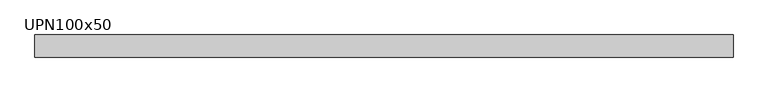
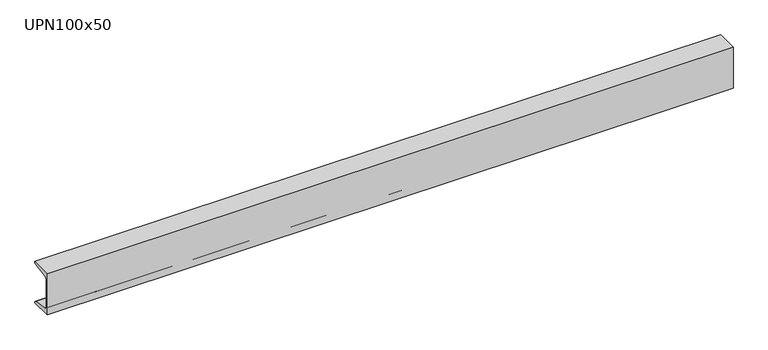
"""IFC4 building model written with IfcOpenShell, lengths in millimetres: beam geometry, M_MC Shapes : UPN100x50."""

import ifcopenshell
import ifcopenshell.guid

model = None  # the IFC model being written
_history = None  # IfcOwnerHistory: only IFC2X3 demands one
_inside = {}  # id of a spatial element -> (the spatial element, [elements in it])
_under = {}  # id of a project, library or spatial element -> (it, [spatial elements below it])
_declared = {}  # id of a project -> (the project, [libraries it declares])
_typed = {}  # id of a type object -> (the type object, [elements of that type])
_made_of = {}  # id of a material, layer set ... -> (it, [elements and type objects made of it])


def new_model(schema):
    """Start an empty IFC model of exactly this schema.

    Asked for "IFC4X3", IfcOpenShell would pick the latest addendum, in which some entities
    have other attributes; the version numbers below select the first issue.
    IFC2X3 requires an IfcOwnerHistory on every rooted entity: one is made here for all.
    """
    global model, _history
    if schema == "IFC4X3":
        model = ifcopenshell.file(schema_version=(4, 3, 0, 0))
    else:
        model = ifcopenshell.file(schema=schema)
    _inside.clear()
    _under.clear()
    _declared.clear()
    _typed.clear()
    _made_of.clear()
    _history = None
    if model.schema == "IFC2X3":
        org = make("IfcOrganization", Name="unknown")
        user = make(
            "IfcPersonAndOrganization",
            ThePerson=make("IfcPerson", FamilyName="unknown"),
            TheOrganization=org,
        )
        app = make(
            "IfcApplication",
            ApplicationDeveloper=org,
            Version="unknown",
            ApplicationFullName="unknown",
            ApplicationIdentifier="unknown",
        )
        _history = make(
            "IfcOwnerHistory",
            OwningUser=user,
            OwningApplication=app,
            ChangeAction="ADDED",
            CreationDate=0,
        )
    return model


def make(cls, **values):
    """One entity of the class cls with the attributes given. An attribute that is None is left unset."""
    return model.create_entity(
        cls, **{name: value for name, value in values.items() if value is not None}
    )


def rooted(cls, **values):
    """An entity with a GlobalId (a new one), such as an element, a storey or a relation."""
    return make(cls, GlobalId=ifcopenshell.guid.new(), OwnerHistory=_history, **values)


def si_unit(unit_type, name, prefix=None):
    """IfcSIUnit, for example si_unit("LENGTHUNIT", "METRE", prefix="MILLI")."""
    return make("IfcSIUnit", UnitType=unit_type, Prefix=prefix, Name=name)


def assignment(units):
    """IfcUnitAssignment: the units of a project."""
    return None if units is None else make("IfcUnitAssignment", Units=units)


def point(xyz):
    """IfcCartesianPoint."""
    return None if xyz is None else make("IfcCartesianPoint", Coordinates=xyz)


def direction(xyz):
    """IfcDirection."""
    return None if xyz is None else make("IfcDirection", DirectionRatios=xyz)


def frame(location, z_axis=None, x_axis=None):
    """IfcAxis2Placement3D, a coordinate frame: its origin and axes. An axis left out is left unset."""
    return make(
        "IfcAxis2Placement3D",
        Location=point(location),
        Axis=direction(z_axis),
        RefDirection=direction(x_axis),
    )


def frame_2d(location, x_axis=None):
    """IfcAxis2Placement2D, a coordinate frame in the plane: its origin and x axis."""
    return make(
        "IfcAxis2Placement2D", Location=point(location), RefDirection=direction(x_axis)
    )


def origin():
    """The frame at (0, 0, 0) with its axes left unset."""
    return frame((0.0, 0.0, 0.0))


def place(relative_to, where):
    """IfcLocalPlacement: puts the frame where relative to a parent placement (None: the world)."""
    return make(
        "IfcLocalPlacement", PlacementRelTo=relative_to, RelativePlacement=where
    )


def context(
    kind, dimensions, precision=None, world=None, true_north=None, identifier=None
):
    """IfcGeometricRepresentationContext, for example the 3D "Model" context."""
    return make(
        "IfcGeometricRepresentationContext",
        ContextIdentifier=identifier,
        ContextType=kind,
        CoordinateSpaceDimension=dimensions,
        Precision=precision,
        WorldCoordinateSystem=world,
        TrueNorth=true_north,
    )


def project(units=None, contexts=None):
    """IfcProject with its units and contexts."""
    return rooted(
        "IfcProject",
        Name="project",
        RepresentationContexts=contexts,
        UnitsInContext=assignment(units),
    )


def spatial(cls, under=None, at=None, **own):
    """A site, building, storey or space (cls), placed at a placement, below another one or the project."""
    s = rooted(cls, ObjectPlacement=at, **own)
    if under is not None:
        _under.setdefault(under.id(), (under, []))[1].append(s)
    return s


def polyline(points):
    """IfcPolyline through the points."""
    return make("IfcPolyline", Points=[point(p) for p in points])


def circle_curve(where, radius):
    """IfcCircle in the frame where."""
    return make("IfcCircle", Position=where, Radius=radius)


def trimmed(basis, trim1, trim2, sense, master):
    """IfcTrimmedCurve: the piece of a basis curve between two trims."""
    return make(
        "IfcTrimmedCurve",
        BasisCurve=basis,
        Trim1=trim1,
        Trim2=trim2,
        SenseAgreement=sense,
        MasterRepresentation=master,
    )


def segment(curve, same_sense, transition):
    """IfcCompositeCurveSegment."""
    return make(
        "IfcCompositeCurveSegment",
        Transition=transition,
        SameSense=same_sense,
        ParentCurve=curve,
    )


def composite_curve(segments, self_intersect=None):
    """IfcCompositeCurve: segments joined end to end."""
    return make("IfcCompositeCurve", Segments=segments, SelfIntersect=self_intersect)


def outline(outer, holes=None, kind="AREA"):
    """IfcArbitraryClosedProfileDef: a profile drawn as a closed curve; with holes, ...WithVoids."""
    if holes is None:
        return make("IfcArbitraryClosedProfileDef", ProfileType=kind, OuterCurve=outer)
    return make(
        "IfcArbitraryProfileDefWithVoids",
        ProfileType=kind,
        OuterCurve=outer,
        InnerCurves=holes,
    )


def extrude(swept, where, along, depth):
    """IfcExtrudedAreaSolid: the profile swept, set in the frame where, extruded along a direction by depth."""
    return make(
        "IfcExtrudedAreaSolid",
        SweptArea=swept,
        Position=where,
        ExtrudedDirection=direction(along),
        Depth=depth,
    )


def shape(context_of_items, identifier, shape_type, items):
    """IfcShapeRepresentation: the items that make up one representation, for example the "Body"."""
    return make(
        "IfcShapeRepresentation",
        ContextOfItems=context_of_items,
        RepresentationIdentifier=identifier,
        RepresentationType=shape_type,
        Items=items,
    )


def source(mapping_origin, context_of_items, identifier, shape_type, items):
    """IfcRepresentationMap: a shape defined once, which mapped items show again and again."""
    return make(
        "IfcRepresentationMap",
        MappingOrigin=mapping_origin,
        MappedRepresentation=shape(context_of_items, identifier, shape_type, items),
    )


def transform(
    local_origin,
    x_axis=None,
    y_axis=None,
    z_axis=None,
    scale=None,
    scale2=None,
    scale3=None,
    uniform=True,
):
    """IfcCartesianTransformationOperator3D, or its non-uniform kind. x_axis, y_axis, z_axis: its Axis1, 2, 3."""
    if uniform:
        return make(
            "IfcCartesianTransformationOperator3D",
            Axis1=direction(x_axis),
            Axis2=direction(y_axis),
            LocalOrigin=point(local_origin),
            Scale=scale,
            Axis3=direction(z_axis),
        )
    return make(
        "IfcCartesianTransformationOperator3DnonUniform",
        Axis1=direction(x_axis),
        Axis2=direction(y_axis),
        LocalOrigin=point(local_origin),
        Scale=scale,
        Axis3=direction(z_axis),
        Scale2=scale2,
        Scale3=scale3,
    )


def mapped(mapping_source, mapping_target):
    """IfcMappedItem: shows the shape of a source again, moved by a transform."""
    return make(
        "IfcMappedItem", MappingSource=mapping_source, MappingTarget=mapping_target
    )


def made_of(thing, what):
    """Note that an element or type object is made of a material, layer set ...; save() writes the relation."""
    if what is not None:
        _made_of.setdefault(what.id(), (what, []))[1].append(thing)
    return thing


def element(
    cls,
    number,
    at=None,
    inside=None,
    cuts=None,
    type_object=None,
    material=None,
    context=None,
    identifier="Body",
    shape_type=None,
    held_by="IfcProductDefinitionShape",
    body=None,
    shapes=None,
    **own,
):
    """One element of the class cls, such as IfcWall. Its Tag is "e" and its number.

    at: its placement. inside: the storey or other place that contains it. cuts: it is an
    opening in that element (IfcRelVoidsElement). A single representation is given by context,
    identifier, shape_type and body (its items); several are given by shapes. held_by: the class
    of the entity that holds the representations. save() writes the other relations.
    """
    e = rooted(cls, Tag="e%d" % number, ObjectPlacement=at, **own)
    if body is not None:
        shapes = [shape(context, identifier, shape_type, body)]
    if shapes is not None:
        e.Representation = make(held_by, Representations=shapes)
    if inside is not None:
        _inside.setdefault(inside.id(), (inside, []))[1].append(e)
    if cuts is not None:
        rooted(
            "IfcRelVoidsElement", RelatingBuildingElement=cuts, RelatedOpeningElement=e
        )
    if type_object is not None:
        _typed.setdefault(type_object.id(), (type_object, []))[1].append(e)
    return made_of(e, material)


def aggregate(whole, parts):
    """IfcRelAggregates: a whole, such as a stair, and the parts it consists of."""
    return rooted("IfcRelAggregates", RelatingObject=whole, RelatedObjects=parts)


def save(model, path):
    """Write the relations noted so far, then the file.

    IfcRelAggregates (storeys below a building ...), IfcRelContainedInSpatialStructure (elements
    in a storey), IfcRelDefinesByType, IfcRelAssociatesMaterial and IfcRelDeclares: one each for
    every whole, place, type object, material and project.
    """
    for whole, parts in _under.values():
        aggregate(whole, parts)
    for where, things in _inside.values():
        rooted(
            "IfcRelContainedInSpatialStructure",
            RelatedElements=things,
            RelatingStructure=where,
        )
    for kind, things in _typed.values():
        rooted("IfcRelDefinesByType", RelatedObjects=things, RelatingType=kind)
    for what, things in _made_of.values():
        rooted("IfcRelAssociatesMaterial", RelatedObjects=things, RelatingMaterial=what)
    for by, libraries in _declared.values():
        rooted("IfcRelDeclares", RelatingContext=by, RelatedDefinitions=libraries)
    model.write(path)


def upn100x50_399e2a19(model_context):
    return source(origin(), model_context, "Body", "SweptSolid", [
        extrude(outline(composite_curve([segment(polyline([(-10.9, 50.0), (39.1, 50.0), (39.1, 49.0253247)]), True, "CONTINUOUS"), segment(trimmed(circle_curve(frame_2d((35.15, 49.0253247)), 3.95), [point((39.1, 49.0253247))], [point((35.7993773, 45.1290689))], False, "CARTESIAN"), True, "CONTINUOUS"), segment(polyline([(35.7993773, 45.1290689), (0.2512455, 39.2043685)]), True, "CONTINUOUS"), segment(trimmed(circle_curve(frame_2d((1.55, 31.4118569)), 7.9), [point((0.2512455, 39.2043685))], [point((-6.35, 31.4118569))], True, "CARTESIAN"), True, "CONTINUOUS"), segment(polyline([(-6.35, 31.4118569), (-6.35, -31.4118569)]), True, "CONTINUOUS"), segment(trimmed(circle_curve(frame_2d((1.55, -31.4118569)), 7.9), [point((-6.35, -31.4118569))], [point((0.2512455, -39.2043685))], True, "CARTESIAN"), True, "CONTINUOUS"), segment(polyline([(0.2512455, -39.2043685), (35.7993773, -45.1290689)]), True, "CONTINUOUS"), segment(trimmed(circle_curve(frame_2d((35.15, -49.0253247)), 3.95), [point((35.7993773, -45.1290689))], [point((39.1, -49.0253247))], False, "CARTESIAN"), True, "CONTINUOUS"), segment(polyline([(39.1, -49.0253247), (39.1, -50.0), (-10.9, -50.0), (-10.9, 50.0)]), True, "CONTINUOUS")], self_intersect=False)), frame((-790.0, 0.0, 0.0), z_axis=(1.0, 0.0, 0.0), x_axis=(0.0, 1.0, 0.0)), (0.0, 0.0, 1.0), 1580.0),
    ])


if __name__ == "__main__":
    model = new_model("IFC4")
    model_context = context("Model", 3, world=origin())
    ifc_project = project(units=[si_unit("LENGTHUNIT", "METRE", prefix="MILLI")], contexts=[model_context])
    site = spatial("IfcSite", under=ifc_project)
    building = spatial("IfcBuilding", under=site)
    placement = place(None, origin())
    upn100x50_shape = upn100x50_399e2a19(model_context)
    element("IfcBeam", 1, ObjectType="M_MC Shapes : UPN100x50", at=placement, inside=building, context=model_context, shape_type="MappedRepresentation", body=[
        mapped(upn100x50_shape, transform((0.0, 0.0, 0.0), x_axis=(1.0, 0.0, 0.0), y_axis=(0.0, 1.0, 0.0), z_axis=(0.0, 0.0, 1.0))),
    ])
    save(model, "model.ifc")
